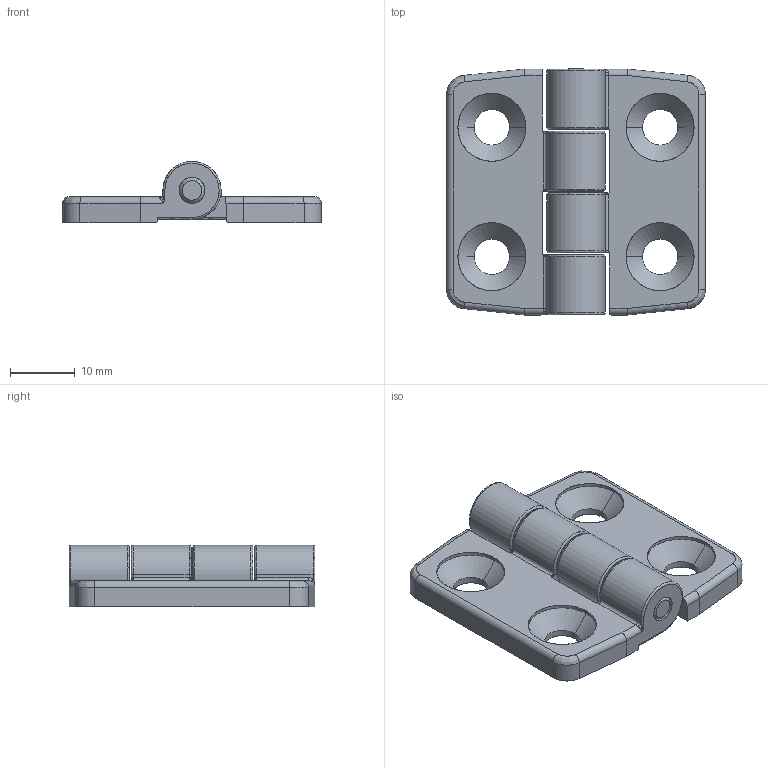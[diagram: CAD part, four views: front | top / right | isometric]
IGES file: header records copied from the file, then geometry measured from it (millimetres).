
Start section: SolidWorks IGES file using analytic representation for surfaces
Global section: file name: \\Solidworks\e\NEW PRODUCT FOR 2016\DHISS-4038 Hinge\DHIS-4038.IGS; native system: SolidWorks 2015; preprocessor: SolidWorks 2015; author: Administrator; date: 160125.083816; units: millimetre
Bounding box: 40 x 38 x 9.5 mm (x, y, z)
Surface area: 4612.9 mm2 (no closed solid volume)
Topology: 0 solids, 0 shells, 250 faces, 2284 edges, 2282 vertices
Faces by surface type: bspline 158, revolution 92
